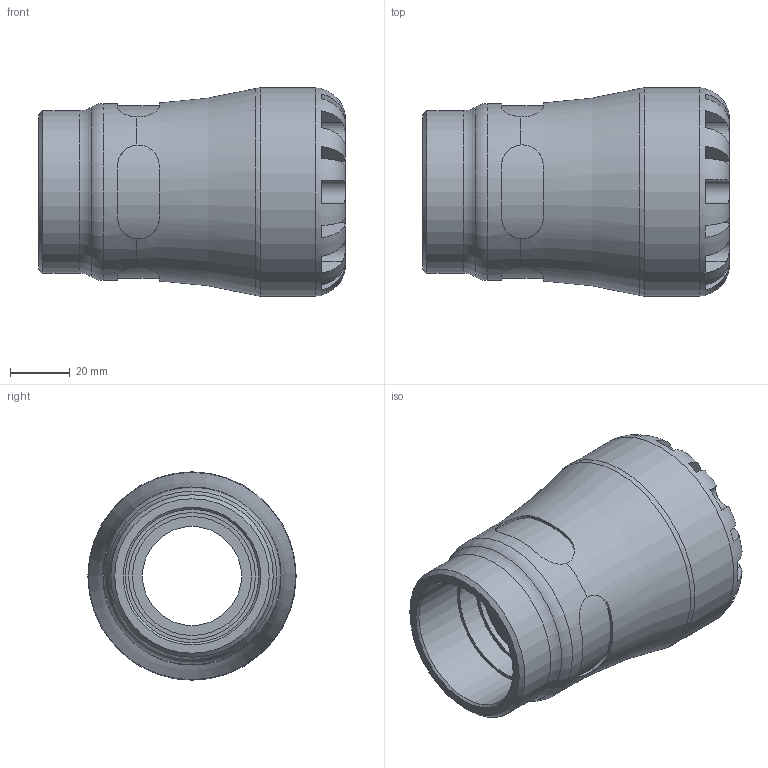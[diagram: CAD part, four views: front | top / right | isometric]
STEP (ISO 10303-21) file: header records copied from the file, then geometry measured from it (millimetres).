
FILE_DESCRIPTION(/* description */ ('PLASSON FEMALE ADAPTOR 40x1 1/2" SERIES 1'),/* implementation_level */ '2;1');
FILE_NAME(/* name */ 'C:\Dropbox\KIMPROJECTS-Inventor\99-16-3568-Processing\S1\27.01.19\1003G\1003G0040015_1903G0040015.ipt.stp',/* time_stamp */ '2019-01-27T09:13:19+02:00',/* author */ ('KIM'),/* organization */ (''),/* preprocessor_version */ 'ST-DEVELOPER v15.6',/* originating_system */ 'Autodesk Inventor 2015',/* authorisation */ '');
FILE_SCHEMA (('AUTOMOTIVE_DESIGN { 1 0 10303 214 3 1 1 }'));
Length unit declared in the file: millimetre
Products named in the file (1): 1003G0040015_1903G0040015
Bounding box: 103 x 70 x 70 mm (x, y, z)
Volume: 178270.6 mm3; surface area: 39154 mm2
Topology: 1 solids, 1 shells, 106 faces, 269 edges, 169 vertices
Faces by surface type: plane 62, cylinder 36, torus 5, cone 3
Full cylindrical faces by diameter (mm): 33.333 x1, 40 x2, 42.603 x1, 44.845 x1, 54.6 x1, 59.5 x1, 70 x1
Entity records: 3888 total; most frequent: CARTESIAN_POINT 1467, ORIENTED_EDGE 496, DIRECTION 486, EDGE_CURVE 248, AXIS2_PLACEMENT_3D 203, VERTEX_POINT 164, EDGE_LOOP 128, FACE_OUTER_BOUND 106
